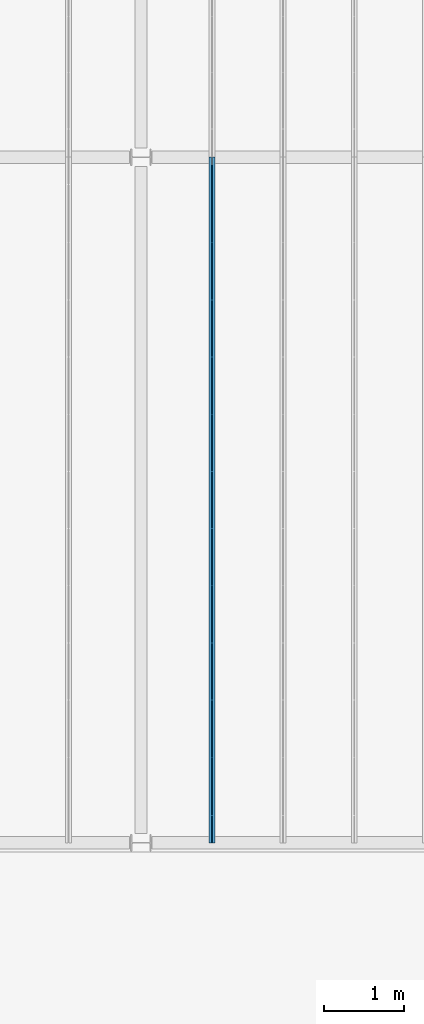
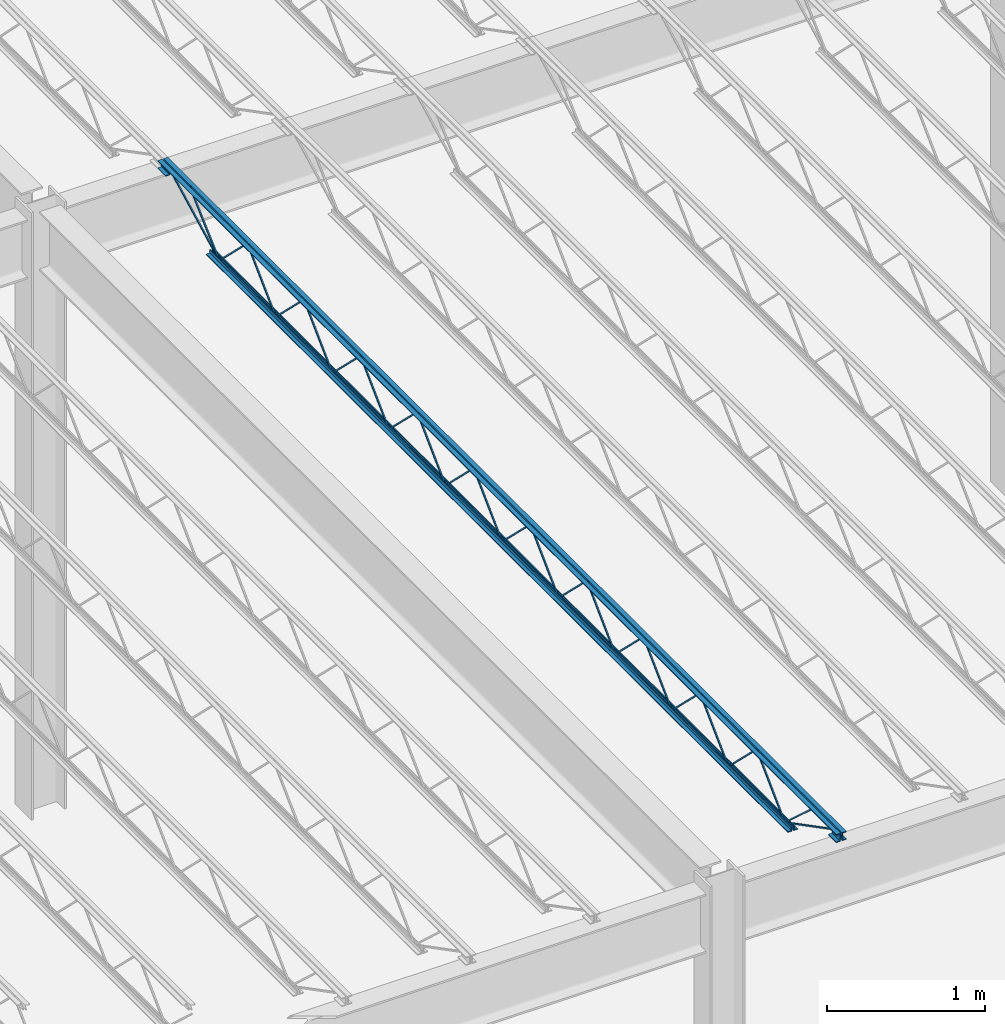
# One storey, part 26 of 119: 1 beam.
"""IFC2X3 building model written with IfcOpenShell, lengths in metres."""

from ifc_helpers import new_model, entity, si_unit, converted_unit, frame, origin, place, context, project, spatial, face_set, surface_model, element, save


model = new_model("IFC2X3")

# Units and contexts
model_context = context("Model", 3, precision=1e-09, world=origin())
plan_context = context("Plan", 3, precision=1e-09, world=origin())
ifc_project = project(units=[si_unit("LENGTHUNIT", "METRE"), si_unit("AREAUNIT", "SQUARE_METRE"), si_unit("VOLUMEUNIT", "CUBIC_METRE"), converted_unit("PLANEANGLEUNIT", "DEGREE", entity("IfcRatioMeasure", 0.01745329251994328), si_unit("PLANEANGLEUNIT", "RADIAN"), dimensions=[0, 0, 0, 0, 0, 0, 0]), si_unit("TIMEUNIT", "SECOND")], contexts=[model_context, plan_context])

# Site, building, storey
site_placement = place(None, origin())
site = spatial("IfcSite", under=ifc_project, at=site_placement, Name="Default", CompositionType="ELEMENT")
building_placement = place(site_placement, origin())
building = spatial("IfcBuilding", under=site, at=building_placement, CompositionType="ELEMENT")
storey_placement = place(building_placement, frame((0.0, 0.0, 4.570000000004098)))
storey = spatial("IfcBuildingStorey", under=building, at=storey_placement, Name="Second Floor", CompositionType="ELEMENT", Elevation=4.570000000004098)

# Beam
beam_placement = place(storey_placement, frame((-39.80800000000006, 10.04000000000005, 4.323999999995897)))
element("IfcBeam", 1, at=beam_placement, inside=storey, Name="M_K-Series Bar Joist-Rod Web:14K1:14K1", ObjectType="M_K-Series Bar Joist-Rod Web:14K1", context=model_context, shape_type="SurfaceModel", body=[
    surface_model("IfcFaceBasedSurfaceModel", [(0.04150000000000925, 6.428799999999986, 0.01110000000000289), (0.03200000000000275, 6.428799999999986, 0.01110000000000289), (0.03200000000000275, 6.428799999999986, 0.001600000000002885), (0.04150000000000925, 6.428799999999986, 0.001600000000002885), (0.03200000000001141, 6.430038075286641, 0.01110000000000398), (0.04150000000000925, 6.430038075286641, 0.01110000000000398), (0.03200000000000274, 6.433911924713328, 0.001600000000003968), (0.03200000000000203, 6.784861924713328, 0.3449000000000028), (0.03200000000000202, 6.78733807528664, 0.3449000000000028), (0.03200000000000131, 7.138288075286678, 0.001600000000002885), (0.0320000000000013, 7.143399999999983, 0.001600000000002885), (0.0320000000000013, 7.143399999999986, 0.01110000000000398), (0.03200000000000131, 7.142161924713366, 0.01110000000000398), (0.03200000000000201, 6.79121192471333, 0.3544000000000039), (0.03200000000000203, 6.780988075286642, 0.3544000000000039), (0.04150000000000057, 6.433911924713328, 0.001600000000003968), (0.04150000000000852, 6.784861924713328, 0.3449000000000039), (0.04150000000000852, 6.787338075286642, 0.3449000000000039), (0.04150000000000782, 7.138288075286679, 0.001600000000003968), (0.04150000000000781, 7.143399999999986, 0.001600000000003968), (0.04150000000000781, 7.143399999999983, 0.01110000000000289), (0.04150000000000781, 7.142161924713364, 0.01110000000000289), (0.04150000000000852, 6.791211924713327, 0.3544000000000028), (0.04150000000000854, 6.780988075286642, 0.3544000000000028), (0.04150000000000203, 5.714199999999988, 0.01110000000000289), (0.03199999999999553, 5.714199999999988, 0.01110000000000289), (0.03199999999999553, 5.714199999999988, 0.001600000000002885), (0.04150000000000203, 5.714199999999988, 0.001600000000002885), (0.03200000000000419, 5.715438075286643, 0.01110000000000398), (0.04150000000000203, 5.715438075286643, 0.01110000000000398), (0.03199999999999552, 5.71931192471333, 0.001600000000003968), (0.0319999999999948, 6.07026192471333, 0.3449000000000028), (0.0319999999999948, 6.072738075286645, 0.3449000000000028), (0.03199999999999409, 6.423688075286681, 0.001600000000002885), (0.03200000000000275, 6.428799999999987, 0.001600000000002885), (0.03199999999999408, 6.428799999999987, 0.01110000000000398), (0.03199999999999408, 6.427561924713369, 0.01110000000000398), (0.0319999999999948, 6.076611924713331, 0.3544000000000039), (0.03199999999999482, 6.066388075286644, 0.3544000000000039), (0.04149999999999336, 5.71931192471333, 0.001600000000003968), (0.04150000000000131, 6.07026192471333, 0.3449000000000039), (0.0415000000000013, 6.072738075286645, 0.3449000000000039), (0.0415000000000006, 6.423688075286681, 0.001600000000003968), (0.04150000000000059, 6.428799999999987, 0.001600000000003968), (0.04150000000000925, 6.428799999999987, 0.01110000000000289), (0.04150000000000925, 6.427561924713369, 0.01110000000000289), (0.0415000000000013, 6.076611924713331, 0.3544000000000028), (0.04150000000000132, 6.066388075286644, 0.3544000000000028), (0.04150000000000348, 4.999599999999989, 0.01110000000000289), (0.03199999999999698, 4.999599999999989, 0.01110000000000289), (0.03199999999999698, 4.999599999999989, 0.001600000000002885), (0.04150000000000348, 4.999599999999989, 0.001600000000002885), (0.03200000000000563, 5.000838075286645, 0.01110000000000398), (0.04150000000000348, 5.000838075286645, 0.01110000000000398), (0.03199999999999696, 5.004711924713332, 0.001600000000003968), (0.03199999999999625, 5.355661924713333, 0.3449000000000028), (0.03199999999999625, 5.358138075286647, 0.3449000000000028), (0.03199999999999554, 5.709088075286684, 0.001600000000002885), (0.03199999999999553, 5.714199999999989, 0.001600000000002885), (0.03199999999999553, 5.714199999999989, 0.01110000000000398), (0.03199999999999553, 5.712961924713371, 0.01110000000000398), (0.03199999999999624, 5.362011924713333, 0.3544000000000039), (0.03199999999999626, 5.351788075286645, 0.3544000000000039), (0.04149999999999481, 5.004711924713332, 0.001600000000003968), (0.04150000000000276, 5.355661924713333, 0.3449000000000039), (0.04150000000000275, 5.358138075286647, 0.3449000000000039), (0.04150000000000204, 5.709088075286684, 0.001600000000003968), (0.04150000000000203, 5.714199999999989, 0.001600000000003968), (0.04150000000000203, 5.714199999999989, 0.01110000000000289), (0.04150000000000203, 5.712961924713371, 0.01110000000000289), (0.04150000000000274, 5.362011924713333, 0.3544000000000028), (0.04150000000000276, 5.351788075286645, 0.3544000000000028), (0.04150000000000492, 4.284999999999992, 0.01110000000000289), (0.03199999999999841, 4.284999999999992, 0.01110000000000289), (0.03199999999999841, 4.284999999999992, 0.001600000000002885), (0.04150000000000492, 4.284999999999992, 0.001600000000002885), (0.03200000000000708, 4.286238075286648, 0.01110000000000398), (0.04150000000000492, 4.286238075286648, 0.01110000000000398), (0.03199999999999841, 4.290111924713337, 0.001600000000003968), (0.0319999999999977, 4.641061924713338, 0.3449000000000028), (0.03199999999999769, 4.643538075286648, 0.3449000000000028), (0.03199999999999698, 4.994488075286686, 0.001600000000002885), (0.03199999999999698, 4.999599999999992, 0.001600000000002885), (0.03199999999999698, 4.999599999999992, 0.01110000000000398), (0.03199999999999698, 4.998361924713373, 0.01110000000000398), (0.03199999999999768, 4.647411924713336, 0.3544000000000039), (0.0319999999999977, 4.637188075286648, 0.3544000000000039), (0.04149999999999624, 4.290111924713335, 0.001600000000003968), (0.0415000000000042, 4.641061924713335, 0.3449000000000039), (0.04150000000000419, 4.643538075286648, 0.3449000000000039), (0.04150000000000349, 4.994488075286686, 0.001600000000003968), (0.04150000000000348, 4.999599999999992, 0.001600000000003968), (0.04150000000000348, 4.999599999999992, 0.01110000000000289), (0.04150000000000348, 4.998361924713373, 0.01110000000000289), (0.04150000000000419, 4.647411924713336, 0.3544000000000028), (0.04150000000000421, 4.637188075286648, 0.3544000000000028), (0.04150000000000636, 3.570399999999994, 0.01110000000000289), (0.03199999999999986, 3.570399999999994, 0.01110000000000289), (0.03199999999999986, 3.570399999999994, 0.001600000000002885), (0.04150000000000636, 3.570399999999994, 0.001600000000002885), (0.03200000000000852, 3.57163807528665, 0.01110000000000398), (0.04150000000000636, 3.57163807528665, 0.01110000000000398), (0.03199999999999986, 3.575511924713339, 0.001600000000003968), (0.03199999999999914, 3.926461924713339, 0.3449000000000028), (0.03199999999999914, 3.928938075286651, 0.3449000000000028), (0.03199999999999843, 4.279888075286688, 0.001600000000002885), (0.03199999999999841, 4.284999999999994, 0.001600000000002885), (0.03199999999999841, 4.284999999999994, 0.01110000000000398), (0.03199999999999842, 4.283761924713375, 0.01110000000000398), (0.03199999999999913, 3.932811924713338, 0.3544000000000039), (0.03199999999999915, 3.92258807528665, 0.3544000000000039), (0.04149999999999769, 3.575511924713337, 0.001600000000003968), (0.04150000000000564, 3.926461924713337, 0.3449000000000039), (0.04150000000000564, 3.928938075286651, 0.3449000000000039), (0.04150000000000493, 4.279888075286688, 0.001600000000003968), (0.04150000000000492, 4.284999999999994, 0.001600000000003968), (0.04150000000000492, 4.284999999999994, 0.01110000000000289), (0.04150000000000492, 4.283761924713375, 0.01110000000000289), (0.04150000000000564, 3.93281192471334, 0.3544000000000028), (0.04150000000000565, 3.922588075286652, 0.3544000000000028), (0.04150000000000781, 2.855799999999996, 0.01110000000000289), (0.03200000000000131, 2.855799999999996, 0.01110000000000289), (0.03200000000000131, 2.855799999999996, 0.001600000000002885), (0.04150000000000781, 2.855799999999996, 0.001600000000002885), (0.03200000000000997, 2.857038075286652, 0.01110000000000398), (0.04150000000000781, 2.857038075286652, 0.01110000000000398), (0.0320000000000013, 2.860911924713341, 0.001600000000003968), (0.03200000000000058, 3.211861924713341, 0.3449000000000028), (0.03200000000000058, 3.214338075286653, 0.3449000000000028), (0.03199999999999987, 3.56528807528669, 0.001600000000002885), (0.03199999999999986, 3.570399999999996, 0.001600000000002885), (0.03199999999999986, 3.570399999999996, 0.01110000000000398), (0.03199999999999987, 3.569161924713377, 0.01110000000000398), (0.03200000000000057, 3.21821192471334, 0.3544000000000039), (0.03200000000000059, 3.207988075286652, 0.3544000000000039), (0.04149999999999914, 2.860911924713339, 0.001600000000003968), (0.04150000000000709, 3.21186192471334, 0.3449000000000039), (0.04150000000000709, 3.214338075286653, 0.3449000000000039), (0.04150000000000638, 3.56528807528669, 0.001600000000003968), (0.04150000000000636, 3.570399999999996, 0.001600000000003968), (0.04150000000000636, 3.570399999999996, 0.01110000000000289), (0.04150000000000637, 3.569161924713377, 0.01110000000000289), (0.04150000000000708, 3.218211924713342, 0.3544000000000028), (0.04150000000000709, 3.207988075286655, 0.3544000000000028), (0.04150000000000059, 2.1412, 0.01110000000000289), (0.03199999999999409, 2.1412, 0.01110000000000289), (0.03199999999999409, 2.1412, 0.001600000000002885), (0.04150000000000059, 2.1412, 0.001600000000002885), (0.03200000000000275, 2.142438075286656, 0.01110000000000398), (0.04150000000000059, 2.142438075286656, 0.01110000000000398), (0.03200000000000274, 2.146311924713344, 0.001600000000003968), (0.03200000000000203, 2.497261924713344, 0.3449000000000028), (0.03200000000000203, 2.499738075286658, 0.3449000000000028), (0.03200000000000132, 2.850688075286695, 0.001600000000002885), (0.03200000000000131, 2.8558, 0.001600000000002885), (0.03199999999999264, 2.8558, 0.01110000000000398), (0.03199999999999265, 2.854561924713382, 0.01110000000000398), (0.03199999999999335, 2.503611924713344, 0.3544000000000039), (0.03199999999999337, 2.493388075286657, 0.3544000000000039), (0.04149999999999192, 2.146311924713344, 0.001600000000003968), (0.04149999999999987, 2.497261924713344, 0.3449000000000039), (0.04149999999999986, 2.499738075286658, 0.3449000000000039), (0.04149999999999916, 2.850688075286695, 0.001600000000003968), (0.04149999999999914, 2.8558, 0.001600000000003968), (0.04150000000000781, 2.8558, 0.01110000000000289), (0.04150000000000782, 2.854561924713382, 0.01110000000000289), (0.04150000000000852, 2.503611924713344, 0.3544000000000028), (0.04150000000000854, 2.493388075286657, 0.3544000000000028), (0.04150000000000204, 1.426600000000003, 0.01110000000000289), (0.03199999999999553, 1.426600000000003, 0.01110000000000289), (0.03199999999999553, 1.426600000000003, 0.001600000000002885), (0.04150000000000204, 1.426600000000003, 0.001600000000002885), (0.03200000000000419, 1.427838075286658, 0.01110000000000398), (0.04150000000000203, 1.427838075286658, 0.01110000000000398), (0.03199999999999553, 1.431711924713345, 0.001600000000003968), (0.03199999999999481, 1.782661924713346, 0.3449000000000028), (0.0319999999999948, 1.78513807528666, 0.3449000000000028), (0.0319999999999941, 2.136088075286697, 0.001600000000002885), (0.03199999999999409, 2.141200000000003, 0.001600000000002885), (0.03199999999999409, 2.141200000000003, 0.01110000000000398), (0.03199999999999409, 2.139961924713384, 0.01110000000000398), (0.0319999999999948, 1.789011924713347, 0.3544000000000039), (0.03199999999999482, 1.778788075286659, 0.3544000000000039), (0.04149999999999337, 1.431711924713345, 0.001600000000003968), (0.04150000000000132, 1.782661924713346, 0.3449000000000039), (0.04150000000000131, 1.78513807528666, 0.3449000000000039), (0.0415000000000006, 2.136088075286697, 0.001600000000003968), (0.04150000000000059, 2.141200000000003, 0.001600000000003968), (0.04150000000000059, 2.141200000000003, 0.01110000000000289), (0.04150000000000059, 2.139961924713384, 0.01110000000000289), (0.0415000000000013, 1.789011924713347, 0.3544000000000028), (0.04150000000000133, 1.778788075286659, 0.3544000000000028), (0.04150000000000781, 7.143399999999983, 0.01109999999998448), (0.0320000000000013, 7.143399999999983, 0.01109999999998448), (0.0320000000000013, 7.143399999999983, 0.001599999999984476), (0.04150000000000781, 7.143399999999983, 0.001599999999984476), (0.03200000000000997, 7.144638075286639, 0.01109999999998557), (0.0415000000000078, 7.144638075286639, 0.01109999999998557), (0.03200000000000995, 7.148511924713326, 0.001599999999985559), (0.03200000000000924, 7.499461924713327, 0.3448999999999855), (0.03200000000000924, 7.501938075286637, 0.3448999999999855), (0.03200000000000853, 7.852888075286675, 0.001599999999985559), (0.03199999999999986, 7.857999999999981, 0.001599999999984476), (0.03200000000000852, 7.857999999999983, 0.01109999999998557), (0.03200000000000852, 7.856761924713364, 0.01109999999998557), (0.03200000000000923, 7.505811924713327, 0.3543999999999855), (0.03200000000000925, 7.495588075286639, 0.3543999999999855), (0.04150000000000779, 7.148511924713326, 0.001599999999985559), (0.04150000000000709, 7.499461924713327, 0.3448999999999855), (0.04150000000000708, 7.50193807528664, 0.3448999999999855), (0.04150000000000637, 7.852888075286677, 0.001599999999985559), (0.04150000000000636, 7.857999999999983, 0.001599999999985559), (0.04150000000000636, 7.857999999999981, 0.01109999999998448), (0.04150000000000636, 7.856761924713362, 0.01109999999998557), (0.04150000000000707, 7.505811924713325, 0.3543999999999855), (0.04150000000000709, 7.495588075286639, 0.3543999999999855), (0.04150000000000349, 0.712000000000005, 0.01110000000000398), (0.03199999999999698, 0.712000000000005, 0.01110000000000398), (0.03199999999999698, 0.712000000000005, 0.001600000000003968), (0.04150000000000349, 0.712000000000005, 0.001600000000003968), (0.03200000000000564, 0.7132380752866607, 0.01110000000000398), (0.04150000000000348, 0.7132380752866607, 0.01110000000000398), (0.03199999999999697, 0.7171119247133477, 0.001600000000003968), (0.03199999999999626, 1.068061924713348, 0.3449000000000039), (0.03199999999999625, 1.070538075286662, 0.3449000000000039), (0.03199999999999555, 1.421488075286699, 0.001600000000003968), (0.03199999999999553, 1.426600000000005, 0.001600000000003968), (0.03199999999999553, 1.426600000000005, 0.01110000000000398), (0.03199999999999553, 1.425361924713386, 0.01110000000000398), (0.03199999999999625, 1.074411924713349, 0.3544000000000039), (0.03199999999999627, 1.064188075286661, 0.3544000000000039), (0.04149999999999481, 0.7171119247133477, 0.001600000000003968), (0.04150000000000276, 1.068061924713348, 0.3449000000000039), (0.04150000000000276, 1.070538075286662, 0.3449000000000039), (0.04150000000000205, 1.421488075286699, 0.001600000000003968), (0.04150000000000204, 1.426600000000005, 0.001600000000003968), (0.04150000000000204, 1.426600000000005, 0.01110000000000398), (0.04150000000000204, 1.425361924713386, 0.01110000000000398), (0.04150000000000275, 1.074411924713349, 0.3544000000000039), (0.04150000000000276, 1.064188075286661, 0.3544000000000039), (0.03199999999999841, 8.57, 0.3559999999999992), (0.0, 8.57, 0.3559999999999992), (0.0, 8.57, 0.3494999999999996), (0.02549999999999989, 8.57, 0.3494999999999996), (0.02549999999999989, 8.57, 0.3239999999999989), (0.03199999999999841, 8.57, 0.3239999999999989), (0.04149999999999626, 8.57, 0.3559999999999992), (0.04149999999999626, 8.57, 0.3239999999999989), (0.04799999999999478, 8.57, 0.3239999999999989), (0.04799999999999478, 8.57, 0.3494999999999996), (0.07349999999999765, 8.57, 0.3494999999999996), (0.07349999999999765, 8.57, 0.3559999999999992), (0.03199999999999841, 0.0, 0.3559999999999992), (0.0, 0.0, 0.3559999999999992), (0.0, 0.0, 0.3494999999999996), (0.02549999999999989, 0.0, 0.3494999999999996), (0.02549999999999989, 0.0, 0.3239999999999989), (0.03199999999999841, 0.0, 0.3239999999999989), (0.04149999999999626, 0.0, 0.3559999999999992), (0.04149999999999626, 0.0, 0.3239999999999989), (0.04799999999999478, 0.0, 0.3239999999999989), (0.04799999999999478, 0.0, 0.3494999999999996), (0.07349999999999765, 0.0, 0.3494999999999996), (0.07349999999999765, 0.0, 0.3559999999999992), (0.04150000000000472, 0.09999999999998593, 0.2924999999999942), (0.0735000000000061, 0.09999999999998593, 0.2924999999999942), (0.0735000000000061, 0.09999999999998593, 0.2989999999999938), (0.04800000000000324, 0.09999999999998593, 0.2989999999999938), (0.04800000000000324, 0.09999999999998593, 0.3239999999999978), (0.04150000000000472, 0.09999999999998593, 0.3239999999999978), (0.0, 0.09999999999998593, 0.2924999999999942), (0.03200000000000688, 0.09999999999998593, 0.2924999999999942), (0.03200000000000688, 0.09999999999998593, 0.3239999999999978), (0.02550000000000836, 0.09999999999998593, 0.3239999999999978), (0.02550000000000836, 0.09999999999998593, 0.2989999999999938), (0.0, 0.09999999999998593, 0.2989999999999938), (0.04150000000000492, 0.0, 0.2924999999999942), (0.07350000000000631, 0.0, 0.2924999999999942), (0.07350000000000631, 0.0, 0.2989999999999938), (0.04800000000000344, 0.0, 0.2989999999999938), (0.04800000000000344, 0.0, 0.3239999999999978), (0.04150000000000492, 0.0, 0.3239999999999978), (0.0, 0.0, 0.2924999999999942), (0.03200000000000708, 0.0, 0.2924999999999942), (0.03200000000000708, 0.0, 0.3239999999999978), (0.02550000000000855, 0.0, 0.3239999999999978), (0.02550000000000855, 0.0, 0.2989999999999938), (0.0, 0.0, 0.2989999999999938), (0.03200000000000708, 8.57, 0.2924999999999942), (0.03200000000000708, 8.57, 0.3239999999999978), (0.02550000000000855, 8.57, 0.3239999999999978), (0.02550000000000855, 8.57, 0.2989999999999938), (0.0, 8.57, 0.2989999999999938), (0.0, 8.57, 0.2924999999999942), (0.04150000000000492, 8.57, 0.2924999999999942), (0.07350000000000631, 8.57, 0.2924999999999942), (0.07350000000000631, 8.57, 0.2989999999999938), (0.04800000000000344, 8.57, 0.2989999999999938), (0.04800000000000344, 8.57, 0.3239999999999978), (0.04150000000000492, 8.57, 0.3239999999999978), (0.03200000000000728, 8.47, 0.2924999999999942), (0.03200000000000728, 8.47, 0.3239999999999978), (0.02550000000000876, 8.47, 0.3239999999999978), (0.02550000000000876, 8.47, 0.2989999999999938), (0.0, 8.47, 0.2989999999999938), (0.0, 8.47, 0.2924999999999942), (0.04150000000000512, 8.47, 0.2924999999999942), (0.07350000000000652, 8.47, 0.2924999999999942), (0.07350000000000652, 8.47, 0.2989999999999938), (0.04800000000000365, 8.47, 0.2989999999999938), (0.04800000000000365, 8.47, 0.3239999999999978), (0.04150000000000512, 8.47, 0.3239999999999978), (0.03199999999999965, 7.958000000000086, 0.0), (0.03199999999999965, 7.958000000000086, 0.03199999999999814), (0.02550000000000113, 7.958000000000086, 0.03199999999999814), (0.02550000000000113, 7.958000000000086, 0.006499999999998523), (0.0, 7.958000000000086, 0.006499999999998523), (0.0, 7.958000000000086, 0.0), (0.0414999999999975, 7.958000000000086, 0.0), (0.07349999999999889, 7.958000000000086, 0.0), (0.07349999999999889, 7.958000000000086, 0.006499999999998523), (0.04799999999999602, 7.958000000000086, 0.006499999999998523), (0.04799999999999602, 7.958000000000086, 0.03199999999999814), (0.0414999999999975, 7.958000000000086, 0.03199999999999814), (0.03199999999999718, 0.6120000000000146, 0.0), (0.03199999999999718, 0.6120000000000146, 0.03199999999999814), (0.02549999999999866, 0.6120000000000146, 0.03199999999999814), (0.02549999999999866, 0.6120000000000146, 0.006499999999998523), (0.0, 0.6120000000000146, 0.006499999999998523), (0.0, 0.6120000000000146, 0.0), (0.04149999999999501, 0.6120000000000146, 0.0), (0.0734999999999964, 0.6120000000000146, 0.0), (0.0734999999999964, 0.6120000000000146, 0.006499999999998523), (0.04799999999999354, 0.6120000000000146, 0.006499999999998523), (0.04799999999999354, 0.6120000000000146, 0.03199999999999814), (0.04149999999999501, 0.6120000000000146, 0.03199999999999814), (0.04150000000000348, 0.7141882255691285, 0.01056594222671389), (0.03199999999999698, 0.7141882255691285, 0.01056594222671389), (0.03199999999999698, 0.7098117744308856, 0.002134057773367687), (0.04150000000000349, 0.7098117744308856, 0.00213405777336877), (0.04150000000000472, 0.1011592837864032, 0.3287499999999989), (0.04150000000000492, 0.0, 0.3287499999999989), (0.04150000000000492, 0.0, 0.3192499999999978), (0.04150000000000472, 0.09884071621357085, 0.3192499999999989), (0.03200000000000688, 0.09884071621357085, 0.3192499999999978), (0.03199999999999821, 0.1011592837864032, 0.3287499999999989), (0.03199999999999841, 0.0, 0.3287499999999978), (0.03199999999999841, 0.0, 0.3192499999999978), (0.04150000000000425, 0.3347428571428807, 0.3417000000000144), (0.03199999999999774, 0.3347428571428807, 0.3417000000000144), (0.03199999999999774, 0.3347428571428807, 0.3322000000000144), (0.04150000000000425, 0.3347428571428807, 0.3322000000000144), (0.03200000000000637, 0.349275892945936, 0.3417000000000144), (0.04150000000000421, 0.349275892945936, 0.3417000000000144), (0.03199999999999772, 0.3456098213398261, 0.3322000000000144), (0.03199999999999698, 0.7088091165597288, 0.002831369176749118), (0.03199999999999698, 0.7151908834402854, 0.009868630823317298), (0.04149999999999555, 0.3456098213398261, 0.3322000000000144), (0.04150000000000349, 0.7088091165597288, 0.002831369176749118), (0.04150000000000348, 0.7151908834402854, 0.009868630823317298), (0.04150000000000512, 8.472188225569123, 0.3197840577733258), (0.04150000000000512, 8.467811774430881, 0.328215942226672), (0.03199999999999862, 8.467811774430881, 0.328215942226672), (0.03199999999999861, 8.472188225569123, 0.3197840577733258), (0.04150000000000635, 7.860188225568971, 0.002134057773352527), (0.04150000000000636, 7.855811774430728, 0.01056594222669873), (0.03199999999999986, 7.855811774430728, 0.01056594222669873), (0.03199999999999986, 7.860188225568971, 0.002134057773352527), (0.0415000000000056, 8.233036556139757, 0.3461600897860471), (0.04150000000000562, 8.22659201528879, 0.3531399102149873), (0.03199999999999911, 8.22659201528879, 0.3531399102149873), (0.0319999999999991, 8.233036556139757, 0.3461600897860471), (0.04150000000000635, 7.861222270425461, 0.00286008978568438), (0.04150000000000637, 7.854777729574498, 0.009839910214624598), (0.03199999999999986, 7.854777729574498, 0.009839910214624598), (0.03199999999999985, 7.861222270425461, 0.00286008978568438)], [face_set([[[0, 1, 2, 3]], [[1, 4, 5, 0]], [[2, 6, 7, 8, 9, 10, 11, 12, 13, 14, 4, 1]], [[3, 2, 6, 15]], [[0, 3, 15, 16, 17, 18, 19, 20, 21, 22, 23, 5]], [[4, 5, 23, 14]], [[15, 16, 7, 6]], [[14, 13, 22, 23]], [[16, 7, 8, 17]], [[13, 12, 21, 22]], [[17, 8, 9, 18]], [[20, 11, 10, 19]], [[12, 11, 20, 21]], [[18, 9, 10, 19]]]), face_set([[[24, 25, 26, 27]], [[25, 28, 29, 24]], [[26, 30, 31, 32, 33, 34, 35, 36, 37, 38, 28, 25]], [[27, 26, 30, 39]], [[24, 27, 39, 40, 41, 42, 43, 44, 45, 46, 47, 29]], [[28, 29, 47, 38]], [[39, 40, 31, 30]], [[38, 37, 46, 47]], [[40, 31, 32, 41]], [[37, 36, 45, 46]], [[41, 32, 33, 42]], [[44, 35, 34, 43]], [[36, 35, 44, 45]], [[42, 33, 34, 43]]]), face_set([[[48, 49, 50, 51]], [[49, 52, 53, 48]], [[50, 54, 55, 56, 57, 58, 59, 60, 61, 62, 52, 49]], [[51, 50, 54, 63]], [[48, 51, 63, 64, 65, 66, 67, 68, 69, 70, 71, 53]], [[52, 53, 71, 62]], [[63, 64, 55, 54]], [[62, 61, 70, 71]], [[64, 55, 56, 65]], [[61, 60, 69, 70]], [[65, 56, 57, 66]], [[68, 59, 58, 67]], [[60, 59, 68, 69]], [[66, 57, 58, 67]]]), face_set([[[72, 73, 74, 75]], [[73, 76, 77, 72]], [[74, 78, 79, 80, 81, 82, 83, 84, 85, 86, 76, 73]], [[75, 74, 78, 87]], [[72, 75, 87, 88, 89, 90, 91, 92, 93, 94, 95, 77]], [[76, 77, 95, 86]], [[87, 88, 79, 78]], [[86, 85, 94, 95]], [[88, 79, 80, 89]], [[85, 84, 93, 94]], [[89, 80, 81, 90]], [[92, 83, 82, 91]], [[84, 83, 92, 93]], [[90, 81, 82, 91]]]), face_set([[[96, 97, 98, 99]], [[97, 100, 101, 96]], [[98, 102, 103, 104, 105, 106, 107, 108, 109, 110, 100, 97]], [[99, 98, 102, 111]], [[96, 99, 111, 112, 113, 114, 115, 116, 117, 118, 119, 101]], [[100, 101, 119, 110]], [[111, 112, 103, 102]], [[110, 109, 118, 119]], [[112, 103, 104, 113]], [[109, 108, 117, 118]], [[113, 104, 105, 114]], [[116, 107, 106, 115]], [[108, 107, 116, 117]], [[114, 105, 106, 115]]]), face_set([[[120, 121, 122, 123]], [[121, 124, 125, 120]], [[122, 126, 127, 128, 129, 130, 131, 132, 133, 134, 124, 121]], [[123, 122, 126, 135]], [[120, 123, 135, 136, 137, 138, 139, 140, 141, 142, 143, 125]], [[124, 125, 143, 134]], [[135, 136, 127, 126]], [[134, 133, 142, 143]], [[136, 127, 128, 137]], [[133, 132, 141, 142]], [[137, 128, 129, 138]], [[140, 131, 130, 139]], [[132, 131, 140, 141]], [[138, 129, 130, 139]]]), face_set([[[144, 145, 146, 147]], [[145, 148, 149, 144]], [[146, 150, 151, 152, 153, 154, 155, 156, 157, 158, 148, 145]], [[147, 146, 150, 159]], [[144, 147, 159, 160, 161, 162, 163, 164, 165, 166, 167, 149]], [[148, 149, 167, 158]], [[159, 160, 151, 150]], [[158, 157, 166, 167]], [[160, 151, 152, 161]], [[157, 156, 165, 166]], [[161, 152, 153, 162]], [[164, 155, 154, 163]], [[156, 155, 164, 165]], [[162, 153, 154, 163]]]), face_set([[[168, 169, 170, 171]], [[169, 172, 173, 168]], [[170, 174, 175, 176, 177, 178, 179, 180, 181, 182, 172, 169]], [[171, 170, 174, 183]], [[168, 171, 183, 184, 185, 186, 187, 188, 189, 190, 191, 173]], [[172, 173, 191, 182]], [[183, 184, 175, 174]], [[182, 181, 190, 191]], [[184, 175, 176, 185]], [[181, 180, 189, 190]], [[185, 176, 177, 186]], [[188, 179, 178, 187]], [[180, 179, 188, 189]], [[186, 177, 178, 187]]]), face_set([[[192, 193, 194, 195]], [[193, 196, 197, 192]], [[194, 198, 199, 200, 201, 202, 203, 204, 205, 206, 196, 193]], [[195, 194, 198, 207]], [[192, 195, 207, 208, 209, 210, 211, 212, 213, 214, 215, 197]], [[196, 197, 215, 206]], [[207, 208, 199, 198]], [[206, 205, 214, 215]], [[208, 199, 200, 209]], [[205, 204, 213, 214]], [[209, 200, 201, 210]], [[212, 203, 202, 211]], [[204, 203, 212, 213]], [[210, 201, 202, 211]]]), face_set([[[216, 217, 218, 219]], [[217, 220, 221, 216]], [[218, 222, 223, 224, 225, 226, 227, 228, 229, 230, 220, 217]], [[219, 218, 222, 231]], [[216, 219, 231, 232, 233, 234, 235, 236, 237, 238, 239, 221]], [[220, 221, 239, 230]], [[231, 232, 223, 222]], [[230, 229, 238, 239]], [[232, 223, 224, 233]], [[229, 228, 237, 238]], [[233, 224, 225, 234]], [[236, 227, 226, 235]], [[228, 227, 236, 237]], [[234, 225, 226, 235]]]), face_set([[[240, 241, 242, 243, 244, 245]], [[246, 247, 248, 249, 250, 251]], [[252, 253, 254, 255, 256, 257]], [[258, 259, 260, 261, 262, 263]], [[245, 240, 252, 257]], [[244, 245, 257, 256]], [[243, 255, 256, 244]], [[242, 243, 255, 254]], [[241, 253, 254, 242]], [[240, 252, 253, 241]], [[251, 263, 258, 246]], [[250, 251, 263, 262]], [[249, 250, 262, 261]], [[248, 249, 261, 260]], [[247, 248, 260, 259]], [[246, 258, 259, 247]]]), face_set([[[264, 265, 266, 267, 268, 269]], [[270, 271, 272, 273, 274, 275]], [[276, 277, 278, 279, 280, 281]], [[282, 283, 284, 285, 286, 287]], [[269, 281, 276, 264]], [[268, 280, 281, 269]], [[267, 268, 280, 279]], [[266, 278, 279, 267]], [[265, 266, 278, 277]], [[264, 265, 277, 276]], [[275, 287, 282, 270]], [[274, 286, 287, 275]], [[273, 285, 286, 274]], [[272, 284, 285, 273]], [[271, 272, 284, 283]], [[270, 271, 283, 282]]]), face_set([[[288, 289, 290, 291, 292, 293]], [[294, 295, 296, 297, 298, 299]], [[300, 301, 302, 303, 304, 305]], [[306, 307, 308, 309, 310, 311]], [[293, 288, 300, 305]], [[292, 304, 305, 293]], [[291, 303, 304, 292]], [[290, 302, 303, 291]], [[289, 301, 302, 290]], [[288, 289, 301, 300]], [[299, 311, 306, 294]], [[298, 310, 311, 299]], [[297, 298, 310, 309]], [[296, 308, 309, 297]], [[295, 296, 308, 307]], [[294, 295, 307, 306]]]), face_set([[[312, 313, 314, 315, 316, 317]], [[318, 319, 320, 321, 322, 323]], [[324, 325, 326, 327, 328, 329]], [[330, 331, 332, 333, 334, 335]], [[317, 312, 324, 329]], [[316, 328, 329, 317]], [[315, 327, 328, 316]], [[314, 326, 327, 315]], [[313, 325, 326, 314]], [[312, 313, 325, 324]], [[323, 335, 330, 318]], [[322, 334, 335, 323]], [[321, 322, 334, 333]], [[320, 332, 333, 321]], [[319, 320, 332, 331]], [[318, 319, 331, 330]]]), face_set([[[336, 337, 338, 339]], [[339, 336, 340, 341, 342, 343]], [[338, 339, 343, 344]], [[337, 345, 346, 347, 344, 338]], [[336, 340, 345, 337]], [[341, 346, 347, 342]], [[344, 343, 342, 347]], [[340, 341, 346, 345]]]), face_set([[[348, 349, 350, 351]], [[349, 352, 353, 348]], [[350, 354, 355, 356, 352, 349]], [[351, 350, 354, 357]], [[348, 351, 357, 358, 359, 353]], [[359, 356, 355, 358]], [[352, 356, 359, 353]], [[357, 354, 355, 358]]]), face_set([[[360, 361, 362, 363]], [[364, 365, 366, 367]], [[363, 360, 364, 367]], [[362, 366, 367, 363]], [[361, 365, 366, 362]], [[360, 361, 365, 364]]]), face_set([[[368, 369, 370, 371]], [[372, 373, 374, 375]], [[371, 375, 372, 368]], [[370, 374, 375, 371]], [[369, 370, 374, 373]], [[368, 369, 373, 372]]])]),
])

save(model, "model.ifc")
